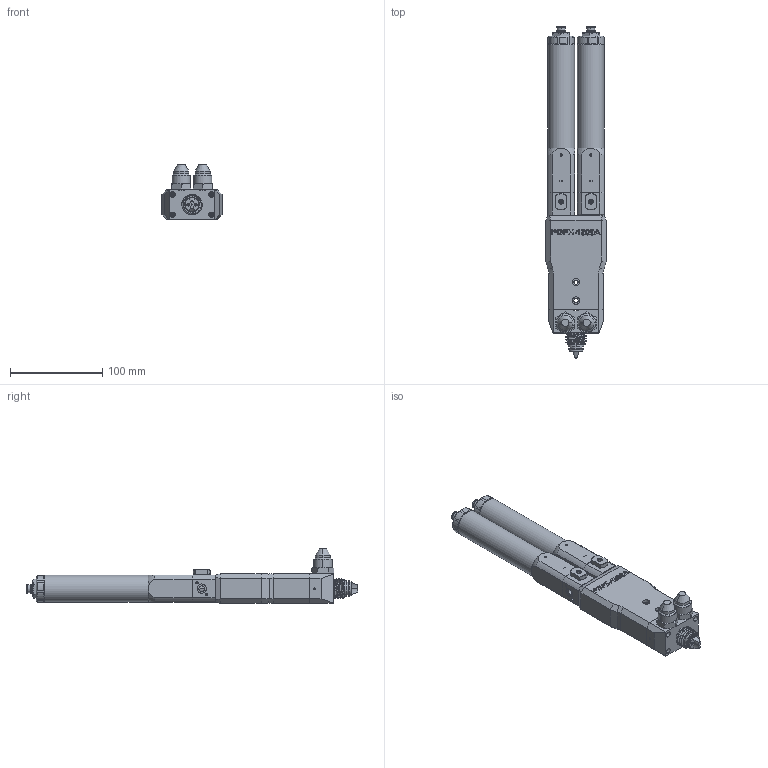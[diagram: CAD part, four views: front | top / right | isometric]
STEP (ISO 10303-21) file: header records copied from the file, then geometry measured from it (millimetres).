
FILE_DESCRIPTION (( 'STEP AP214' ), '1' );
FILE_NAME ('PDPM-1500-150CA.STEP', '2024-10-11T12:33:11', ( '' ), ( '' ), 'SwSTEP 2.0', 'SolidWorks 2024', '' );
FILE_SCHEMA (( 'AUTOMOTIVE_DESIGN' ));
Length unit declared in the file: millimetre
Products named in the file (1): PDPM-1500-150CA
Bounding box: 65 x 359 x 59.3 mm (x, y, z)
Volume: 523963.1 mm3; surface area: 122513.8 mm2
Topology: 12 solids, 12 shells, 1480 faces, 3720 edges, 2364 vertices
Faces by surface type: plane 753, cylinder 422, cone 274, torus 12, bspline 11, sphere 8
Full cylindrical faces by diameter (mm): 29 x2
Entity records: 50977 total; most frequent: CARTESIAN_POINT 15593, ORIENTED_EDGE 7368, DIRECTION 7254, EDGE_CURVE 3684, AXIS2_PLACEMENT_3D 2593, VERTEX_POINT 2364, VECTOR 2068, LINE 2068
